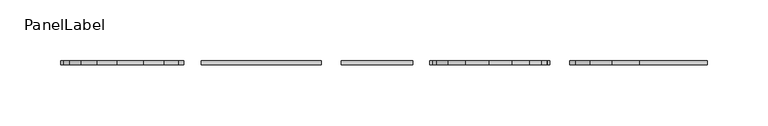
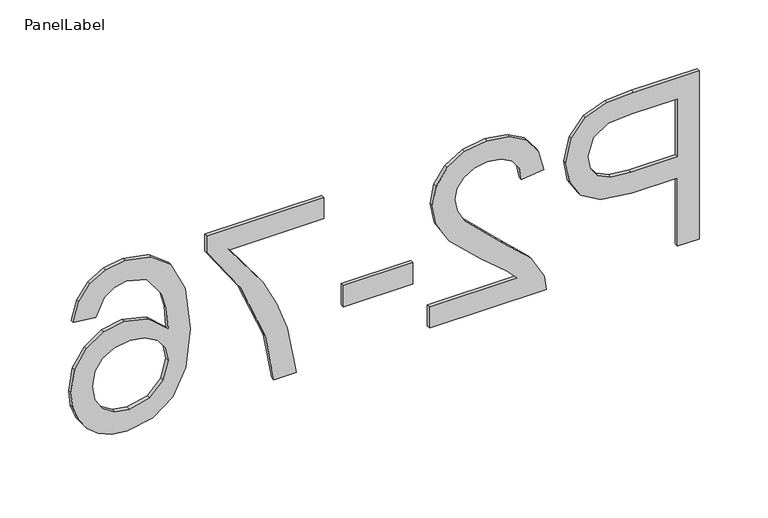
"""IFC4 building model written with IfcOpenShell, lengths in millimetres: fastener geometry, PanelLabel : Miranda."""

import ifcopenshell
import ifcopenshell.guid

model = None  # the IFC model being written
_history = None  # IfcOwnerHistory: only IFC2X3 demands one
_inside = {}  # id of a spatial element -> (the spatial element, [elements in it])
_under = {}  # id of a project, library or spatial element -> (it, [spatial elements below it])
_declared = {}  # id of a project -> (the project, [libraries it declares])
_typed = {}  # id of a type object -> (the type object, [elements of that type])
_made_of = {}  # id of a material, layer set ... -> (it, [elements and type objects made of it])


def new_model(schema):
    """Start an empty IFC model of exactly this schema.

    Asked for "IFC4X3", IfcOpenShell would pick the latest addendum, in which some entities
    have other attributes; the version numbers below select the first issue.
    IFC2X3 requires an IfcOwnerHistory on every rooted entity: one is made here for all.
    """
    global model, _history
    if schema == "IFC4X3":
        model = ifcopenshell.file(schema_version=(4, 3, 0, 0))
    else:
        model = ifcopenshell.file(schema=schema)
    _inside.clear()
    _under.clear()
    _declared.clear()
    _typed.clear()
    _made_of.clear()
    _history = None
    if model.schema == "IFC2X3":
        org = make("IfcOrganization", Name="unknown")
        user = make(
            "IfcPersonAndOrganization",
            ThePerson=make("IfcPerson", FamilyName="unknown"),
            TheOrganization=org,
        )
        app = make(
            "IfcApplication",
            ApplicationDeveloper=org,
            Version="unknown",
            ApplicationFullName="unknown",
            ApplicationIdentifier="unknown",
        )
        _history = make(
            "IfcOwnerHistory",
            OwningUser=user,
            OwningApplication=app,
            ChangeAction="ADDED",
            CreationDate=0,
        )
    return model


def make(cls, **values):
    """One entity of the class cls with the attributes given. An attribute that is None is left unset."""
    return model.create_entity(
        cls, **{name: value for name, value in values.items() if value is not None}
    )


def rooted(cls, **values):
    """An entity with a GlobalId (a new one), such as an element, a storey or a relation."""
    return make(cls, GlobalId=ifcopenshell.guid.new(), OwnerHistory=_history, **values)


def si_unit(unit_type, name, prefix=None):
    """IfcSIUnit, for example si_unit("LENGTHUNIT", "METRE", prefix="MILLI")."""
    return make("IfcSIUnit", UnitType=unit_type, Prefix=prefix, Name=name)


def assignment(units):
    """IfcUnitAssignment: the units of a project."""
    return None if units is None else make("IfcUnitAssignment", Units=units)


def point(xyz):
    """IfcCartesianPoint."""
    return None if xyz is None else make("IfcCartesianPoint", Coordinates=xyz)


def direction(xyz):
    """IfcDirection."""
    return None if xyz is None else make("IfcDirection", DirectionRatios=xyz)


def frame(location, z_axis=None, x_axis=None):
    """IfcAxis2Placement3D, a coordinate frame: its origin and axes. An axis left out is left unset."""
    return make(
        "IfcAxis2Placement3D",
        Location=point(location),
        Axis=direction(z_axis),
        RefDirection=direction(x_axis),
    )


def origin():
    """The frame at (0, 0, 0) with its axes left unset."""
    return frame((0.0, 0.0, 0.0))


def place(relative_to, where):
    """IfcLocalPlacement: puts the frame where relative to a parent placement (None: the world)."""
    return make(
        "IfcLocalPlacement", PlacementRelTo=relative_to, RelativePlacement=where
    )


def context(
    kind, dimensions, precision=None, world=None, true_north=None, identifier=None
):
    """IfcGeometricRepresentationContext, for example the 3D "Model" context."""
    return make(
        "IfcGeometricRepresentationContext",
        ContextIdentifier=identifier,
        ContextType=kind,
        CoordinateSpaceDimension=dimensions,
        Precision=precision,
        WorldCoordinateSystem=world,
        TrueNorth=true_north,
    )


def project(units=None, contexts=None):
    """IfcProject with its units and contexts."""
    return rooted(
        "IfcProject",
        Name="project",
        RepresentationContexts=contexts,
        UnitsInContext=assignment(units),
    )


def spatial(cls, under=None, at=None, **own):
    """A site, building, storey or space (cls), placed at a placement, below another one or the project."""
    s = rooted(cls, ObjectPlacement=at, **own)
    if under is not None:
        _under.setdefault(under.id(), (under, []))[1].append(s)
    return s


def polyline(points):
    """IfcPolyline through the points."""
    return make("IfcPolyline", Points=[point(p) for p in points])


def outline(outer, holes=None, kind="AREA"):
    """IfcArbitraryClosedProfileDef: a profile drawn as a closed curve; with holes, ...WithVoids."""
    if holes is None:
        return make("IfcArbitraryClosedProfileDef", ProfileType=kind, OuterCurve=outer)
    return make(
        "IfcArbitraryProfileDefWithVoids",
        ProfileType=kind,
        OuterCurve=outer,
        InnerCurves=holes,
    )


def extrude(swept, where, along, depth):
    """IfcExtrudedAreaSolid: the profile swept, set in the frame where, extruded along a direction by depth."""
    return make(
        "IfcExtrudedAreaSolid",
        SweptArea=swept,
        Position=where,
        ExtrudedDirection=direction(along),
        Depth=depth,
    )


def shape(context_of_items, identifier, shape_type, items):
    """IfcShapeRepresentation: the items that make up one representation, for example the "Body"."""
    return make(
        "IfcShapeRepresentation",
        ContextOfItems=context_of_items,
        RepresentationIdentifier=identifier,
        RepresentationType=shape_type,
        Items=items,
    )


def source(mapping_origin, context_of_items, identifier, shape_type, items):
    """IfcRepresentationMap: a shape defined once, which mapped items show again and again."""
    return make(
        "IfcRepresentationMap",
        MappingOrigin=mapping_origin,
        MappedRepresentation=shape(context_of_items, identifier, shape_type, items),
    )


def transform(
    local_origin,
    x_axis=None,
    y_axis=None,
    z_axis=None,
    scale=None,
    scale2=None,
    scale3=None,
    uniform=True,
):
    """IfcCartesianTransformationOperator3D, or its non-uniform kind. x_axis, y_axis, z_axis: its Axis1, 2, 3."""
    if uniform:
        return make(
            "IfcCartesianTransformationOperator3D",
            Axis1=direction(x_axis),
            Axis2=direction(y_axis),
            LocalOrigin=point(local_origin),
            Scale=scale,
            Axis3=direction(z_axis),
        )
    return make(
        "IfcCartesianTransformationOperator3DnonUniform",
        Axis1=direction(x_axis),
        Axis2=direction(y_axis),
        LocalOrigin=point(local_origin),
        Scale=scale,
        Axis3=direction(z_axis),
        Scale2=scale2,
        Scale3=scale3,
    )


def mapped(mapping_source, mapping_target):
    """IfcMappedItem: shows the shape of a source again, moved by a transform."""
    return make(
        "IfcMappedItem", MappingSource=mapping_source, MappingTarget=mapping_target
    )


def made_of(thing, what):
    """Note that an element or type object is made of a material, layer set ...; save() writes the relation."""
    if what is not None:
        _made_of.setdefault(what.id(), (what, []))[1].append(thing)
    return thing


def element(
    cls,
    number,
    at=None,
    inside=None,
    cuts=None,
    type_object=None,
    material=None,
    context=None,
    identifier="Body",
    shape_type=None,
    held_by="IfcProductDefinitionShape",
    body=None,
    shapes=None,
    **own,
):
    """One element of the class cls, such as IfcWall. Its Tag is "e" and its number.

    at: its placement. inside: the storey or other place that contains it. cuts: it is an
    opening in that element (IfcRelVoidsElement). A single representation is given by context,
    identifier, shape_type and body (its items); several are given by shapes. held_by: the class
    of the entity that holds the representations. save() writes the other relations.
    """
    e = rooted(cls, Tag="e%d" % number, ObjectPlacement=at, **own)
    if body is not None:
        shapes = [shape(context, identifier, shape_type, body)]
    if shapes is not None:
        e.Representation = make(held_by, Representations=shapes)
    if inside is not None:
        _inside.setdefault(inside.id(), (inside, []))[1].append(e)
    if cuts is not None:
        rooted(
            "IfcRelVoidsElement", RelatingBuildingElement=cuts, RelatedOpeningElement=e
        )
    if type_object is not None:
        _typed.setdefault(type_object.id(), (type_object, []))[1].append(e)
    return made_of(e, material)


def aggregate(whole, parts):
    """IfcRelAggregates: a whole, such as a stair, and the parts it consists of."""
    return rooted("IfcRelAggregates", RelatingObject=whole, RelatedObjects=parts)


def save(model, path):
    """Write the relations noted so far, then the file.

    IfcRelAggregates (storeys below a building ...), IfcRelContainedInSpatialStructure (elements
    in a storey), IfcRelDefinesByType, IfcRelAssociatesMaterial and IfcRelDeclares: one each for
    every whole, place, type object, material and project.
    """
    for whole, parts in _under.values():
        aggregate(whole, parts)
    for where, things in _inside.values():
        rooted(
            "IfcRelContainedInSpatialStructure",
            RelatedElements=things,
            RelatingStructure=where,
        )
    for kind, things in _typed.values():
        rooted("IfcRelDefinesByType", RelatedObjects=things, RelatingType=kind)
    for what, things in _made_of.values():
        rooted("IfcRelAssociatesMaterial", RelatedObjects=things, RelatingMaterial=what)
    for by, libraries in _declared.values():
        rooted("IfcRelDeclares", RelatingContext=by, RelatedDefinitions=libraries)
    model.write(path)


def panellabel_a8dc8bce(model_context):
    return source(origin(), model_context, "Body", "SweptSolid", [
        extrude(outline(polyline([(1310.9113766, 260.2523077), (1460.9667612, 260.2523077), (1460.9667612, 204.6409615), (1459.5380112, 182.2205769), (1452.5224823, 163.9948558), (1438.0151747, 152.1801923), (1417.554742, 147.7107692), (1399.8693814, 150.7285457), (1385.1331073, 159.781875), (1375.1868093, 176.7116466), (1371.8713766, 203.35875), (1371.8713766, 241.4953846), (1310.9113766, 241.4953846), (1310.9113766, 260.2523077)]), holes=[polyline([(1390.6282997, 241.4953846), (1390.6282997, 202.2597115), (1392.3501266, 185.6275962), (1397.5156073, 174.6372115), (1405.8041891, 168.5100721), (1416.8953189, 166.4676923), (1432.4283958, 171.2851442), (1440.9276266, 183.9424038), (1442.2098381, 202.6993269), (1442.2098381, 241.4953846), (1390.6282997, 241.4953846)])]), frame((0.0, 60.325, 0.0), z_axis=(0.0, 1.0, 0.0), x_axis=(0.0, 0.0, 1.0)), (0.0, 0.0, 1.0), 3.175),
        extrude(outline(polyline([(1329.6682997, 32.8246154), (1310.9113766, 32.8246154), (1310.9113766, 131.2984615), (1323.8433958, 129.2835577), (1343.7543093, 117.8901923), (1365.4969535, 94.4074038), (1396.7462804, 62.0224038), (1407.5168573, 55.9502163), (1417.9943573, 53.9261538), (1427.3865569, 55.8357332), (1435.1943093, 61.5644712), (1440.4559559, 70.3705168), (1442.2098381, 81.5120192), (1440.4971698, 93.2121995), (1435.359165, 102.3021635), (1427.1988045, 108.1682813), (1416.4190689, 110.1969231), (1418.7636843, 128.9538462), (1436.9069775, 124.4065745), (1450.1595497, 114.5747596), (1458.2649583, 99.9712861), (1460.9667612, 81.1090385), (1457.9627227, 62.1094111), (1448.9506073, 47.5334135), (1435.4873862, 38.2602764), (1419.1300304, 35.1692308), (1401.3439247, 38.5029808), (1382.9533477, 49.5849519), (1357.254165, 76.4564423), (1339.211617, 98.0342308), (1329.6682997, 106.4968269), (1329.6682997, 32.8246154)])), frame((0.0, 60.325, 0.0), z_axis=(0.0, 1.0, 0.0), x_axis=(0.0, 0.0, 1.0)), (0.0, 0.0, 1.0), 3.175),
        extrude(outline(polyline([(-39.8584615, 63.5), (18.7569231, 63.5), (18.7569231, 60.325), (-39.8584615, 60.325), (-39.8584615, 63.5)])), frame((0.0, 0.0, 1355.4590689), z_axis=(0.0, 0.0, 1.0), x_axis=(1.0, 0.0, 0.0)), (0.0, 0.0, 1.0), 18.7569231),
        extrude(outline(polyline([(1439.8652227, -56.2707692), (1458.6221458, -56.2707692), (1458.6221458, -154.7446154), (1443.455415, -154.7446154), (1403.1023862, -126.8107212), (1351.6857035, -105.4344231), (1310.9113766, -98.4738462), (1310.9113766, -79.7169231), (1353.2243573, -87.1720673), (1377.5817972, -95.8498918), (1401.0508477, -107.6325), (1439.8652227, -135.9876923), (1439.8652227, -56.2707692)])), frame((0.0, 60.325, 0.0), z_axis=(0.0, 1.0, 0.0), x_axis=(0.0, 0.0, 1.0)), (0.0, 0.0, 1.0), 3.175),
        extrude(outline(polyline([(1421.1082997, -267.2861538), (1418.7636843, -248.5292308), (1434.406665, -241.4221154), (1440.2590448, -232.913726), (1442.2098381, -222.6285577), (1437.6671458, -205.7033654), (1420.6137323, -192.8995673), (1406.6422059, -189.0117187), (1387.1846458, -187.5692308), (1402.1498862, -204.1097596), (1407.0406073, -224.6068269), (1403.6976987, -241.935), (1393.6689727, -256.4789423), (1378.3465448, -266.3428125), (1359.1225304, -269.6307692), (1345.6913646, -268.0829567), (1333.2401747, -263.4395192), (1322.6802468, -256.0851202), (1314.922867, -246.4044231), (1310.1557876, -234.8370433), (1308.5667612, -221.8225962), (1312.779742, -200.5424639), (1325.4186843, -183.594375), (1347.729165, -172.5078245), (1380.9567612, -168.8123077), (1418.3149102, -172.9153846), (1443.8583958, -185.2246154), (1456.6896698, -202.0307452), (1460.9667612, -223.8008654), (1458.3199102, -240.2589663), (1450.3793573, -253.4382692), (1437.767891, -262.6701923), (1421.1082997, -267.2861538)]), holes=[polyline([(1359.4156073, -187.5692308), (1343.1681554, -191.9104327), (1331.3718093, -203.4503365), (1327.3236843, -220.3572115), (1329.421016, -232.7351322), (1335.7130112, -242.4662019), (1345.6043573, -248.7719351), (1358.499742, -250.8738462), (1370.8776626, -248.7994111), (1380.3156554, -242.5761058), (1386.2916771, -232.6801803), (1388.2836843, -219.5878846), (1386.2916771, -207.2282812), (1380.3156554, -196.8927404), (1371.106629, -189.9001082), (1359.4156073, -187.5692308)])]), frame((0.0, 60.325, 0.0), z_axis=(0.0, 1.0, 0.0), x_axis=(0.0, 0.0, 1.0)), (0.0, 0.0, 1.0), 3.175),
    ])


if __name__ == "__main__":
    model = new_model("IFC4")
    model_context = context("Model", 3, world=origin())
    ifc_project = project(units=[si_unit("LENGTHUNIT", "METRE", prefix="MILLI")], contexts=[model_context])
    site = spatial("IfcSite", under=ifc_project)
    building = spatial("IfcBuilding", under=site)
    placement = place(None, origin())
    panellabel_shape = panellabel_a8dc8bce(model_context)
    element("IfcFastener", 1, ObjectType="PanelLabel : Miranda", at=placement, inside=building, context=model_context, shape_type="MappedRepresentation", body=[
        mapped(panellabel_shape, transform((0.0, 0.0, 0.0), x_axis=(1.0, 0.0, 0.0), y_axis=(0.0, 1.0, 0.0), z_axis=(0.0, 0.0, 1.0))),
    ])
    save(model, "model.ifc")
